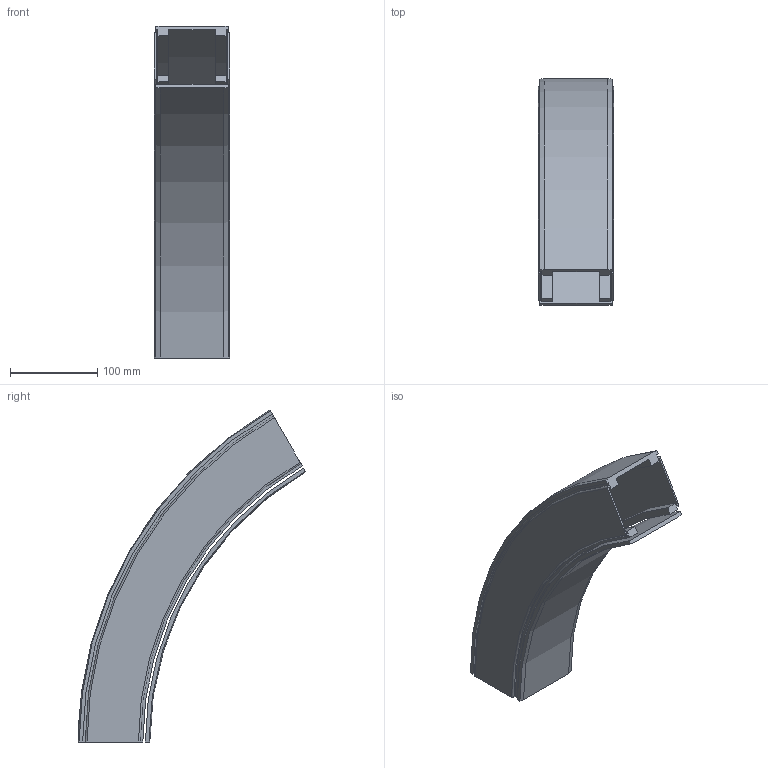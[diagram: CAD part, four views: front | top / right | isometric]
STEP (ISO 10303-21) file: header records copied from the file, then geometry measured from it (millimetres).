
FILE_DESCRIPTION((''),'2;1');
FILE_NAME('C:\Vault Klient\Projekt\Koncept konstruktion\Serie 530 Balk\530-5630_DOWN.stp','2010-11-23T11:28:50',('Mathias'),(''),'Autodesk Inventor 2011','Autodesk Inventor 2011','');
FILE_SCHEMA(('AUTOMOTIVE_DESIGN { 1 0 10303 214 1 1 1 1 }'));
Length unit declared in the file: millimetre
Products named in the file (1): 530-5630_DOWN
Bounding box: 86 x 260.75 x 380.62 mm (x, y, z)
Volume: 620562.8 mm3; surface area: 301782.3 mm2
Topology: 2 solids, 2 shells, 87 faces, 234 edges, 156 vertices
Faces by surface type: plane 40, cylinder 25, bspline 14, cone 4, torus 4
Entity records: 3154 total; most frequent: CARTESIAN_POINT 916, ORIENTED_EDGE 468, DIRECTION 428, EDGE_CURVE 234, VERTEX_POINT 156, AXIS2_PLACEMENT_3D 148, VECTOR 132, LINE 132
